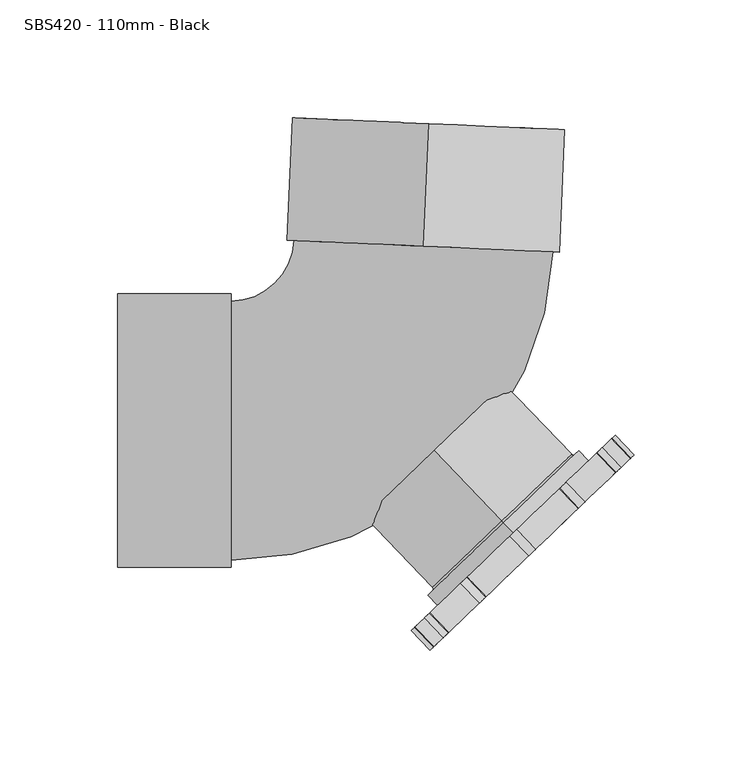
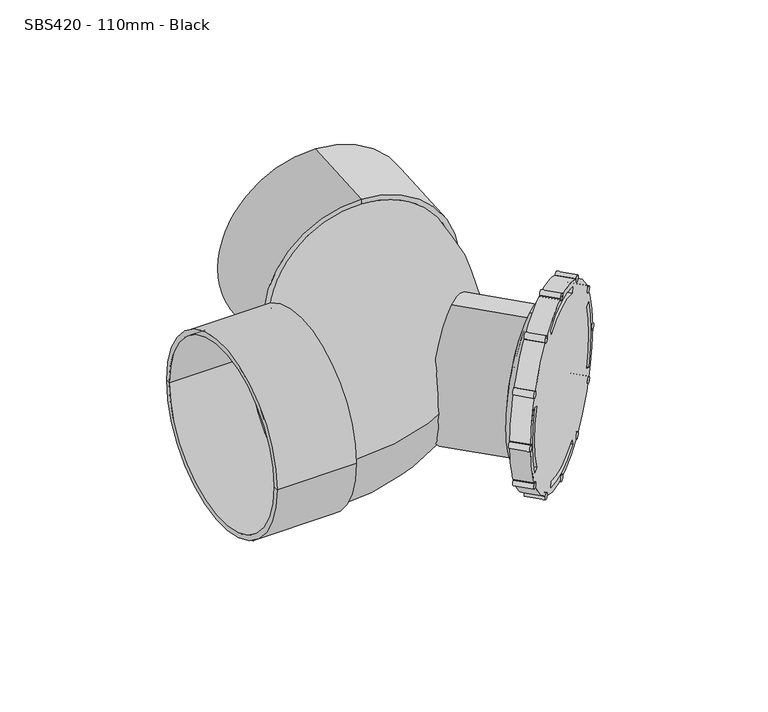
"""IFC4 building model written with IfcOpenShell, lengths in millimetres: pipe fitting geometry, MarleyPlumbingAndDrainage_PipeFitting_RearAccessBend87-5 : SBS420 - 110mm - Black."""

from ifc_helpers import new_model, si_unit, point, frame, frame_2d, origin, place, context, project, spatial, polyline, circle_curve, ellipse_curve, trimmed, segment, composite_curve, outline, extrude, source, transform, mapped, element, save
from ifc_brep_helpers import plane_surface, cylinder_surface, revolved_surface, advanced_brep


def sbs420_110mm_black_80ae0a49(model_context):
    return source(origin(), model_context, "Body", "SolidModel", [
        extrude(outline(composite_curve([segment(trimmed(circle_curve(frame_2d((1e-07, -2.0)), 2.0), [point((0.0, -4.0))], [point((0.0, 0.0))], False, "CARTESIAN"), True, "CONTINUOUS"), segment(trimmed(circle_curve(frame_2d((1e-07, -2.0)), 2.0), [point((0.0, 0.0))], [point((0.0, -4.0))], False, "CARTESIAN"), True, "CONTINUOUS")], self_intersect=False)), frame((84.9672589, -16.3114833, 27.2679492), z_axis=(-0.6915130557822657, 0.7223639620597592, 0.0), x_axis=(0.6255855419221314, 0.5988678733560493, 0.4999999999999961)), (0.0, 0.0, 1.0), 11.5),
        extrude(outline(composite_curve([segment(trimmed(circle_curve(frame_2d((0.0, -2.0)), 2.0), [point((0.0, -4.0))], [point((0.0, 0.0))], False, "CARTESIAN"), True, "CONTINUOUS"), segment(trimmed(circle_curve(frame_2d((0.0, -2.0)), 2.0), [point((0.0, 0.0))], [point((0.0, -4.0))], False, "CARTESIAN"), True, "CONTINUOUS")], self_intersect=False)), frame((89.8580434, -11.6295757, -2.0), z_axis=(-0.6915130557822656, 0.7223639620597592, 0.0), x_axis=(0.7223639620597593, 0.6915130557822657, 0.0)), (0.0, 0.0, 1.0), 11.5),
        extrude(outline(composite_curve([segment(trimmed(circle_curve(frame_2d((1e-07, -2.0)), 2.0), [point((0.0, -4.0))], [point((0.0, 0.0))], False, "CARTESIAN"), True, "CONTINUOUS"), segment(trimmed(circle_curve(frame_2d((1e-07, -2.0)), 2.0), [point((0.0, 0.0))], [point((0.0, -4.0))], False, "CARTESIAN"), True, "CONTINUOUS")], self_intersect=False)), frame((83.522531, -17.6945094, -30.7320508), z_axis=(-0.6915130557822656, 0.7223639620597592, 0.0), x_axis=(0.6255855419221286, 0.5988678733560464, -0.5000000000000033)), (0.0, 0.0, 1.0), 11.5),
        extrude(outline(composite_curve([segment(trimmed(circle_curve(frame_2d((0.0, -2.0)), 2.0), [point((0.0, -4.0))], [point((0.0, 0.0))], False, "CARTESIAN"), True, "CONTINUOUS"), segment(trimmed(circle_curve(frame_2d((0.0, -2.0)), 2.0), [point((0.0, 0.0))], [point((0.0, -4.0))], False, "CARTESIAN"), True, "CONTINUOUS")], self_intersect=False)), frame((67.6583174, -32.8811901, -51.2294734), z_axis=(-0.6915130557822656, 0.7223639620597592, 0.0), x_axis=(0.36118198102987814, 0.3457565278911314, -0.8660254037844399)), (0.0, 0.0, 1.0), 11.5),
        extrude(outline(composite_curve([segment(trimmed(circle_curve(frame_2d((0.0, -2.0)), 2.0), [point((0.0, -4.0))], [point((0.0, 0.0))], False, "CARTESIAN"), True, "CONTINUOUS"), segment(trimmed(circle_curve(frame_2d((0.0, -2.0)), 2.0), [point((0.0, 0.0))], [point((0.0, -4.0))], False, "CARTESIAN"), True, "CONTINUOUS")], self_intersect=False)), frame((46.5162056, -53.1203591, -58.0), z_axis=(-0.6915130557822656, 0.7223639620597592, 0.0), x_axis=(0.0, 0.0, -1.0)), (0.0, 0.0, 1.0), 11.5),
        extrude(outline(composite_curve([segment(trimmed(circle_curve(frame_2d((0.0, -2.0)), 2.0), [point((1e-07, -3.9999999))], [point((0.0, 0.0))], False, "CARTESIAN"), True, "CONTINUOUS"), segment(trimmed(circle_curve(frame_2d((0.0, -2.0)), 2.0), [point((0.0, 0.0))], [point((1e-07, -3.9999999))], False, "CARTESIAN"), True, "CONTINUOUS")], self_intersect=False)), frame((25.7612076, -72.9889473, -49.2294734), z_axis=(-0.6915130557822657, 0.7223639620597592, 0.0), x_axis=(-0.36118198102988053, -0.3457565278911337, -0.866025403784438)), (0.0, 0.0, 1.0), 11.5),
        extrude(outline(composite_curve([segment(trimmed(circle_curve(frame_2d((0.0, -2.0)), 2.0), [point((0.0, -4.0))], [point((0.0, 0.0))], False, "CARTESIAN"), True, "CONTINUOUS"), segment(trimmed(circle_curve(frame_2d((0.0, -2.0)), 2.0), [point((0.0, 0.0))], [point((0.0, -4.0))], False, "CARTESIAN"), True, "CONTINUOUS")], self_intersect=False)), frame((10.9546082, -87.1631827, -27.2679492), z_axis=(-0.6915130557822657, 0.7223639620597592, 0.0), x_axis=(-0.6255855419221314, -0.5988678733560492, -0.4999999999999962)), (0.0, 0.0, 1.0), 11.5),
        extrude(outline(composite_curve([segment(trimmed(circle_curve(frame_2d((0.0, -2.0)), 2.0), [point((0.0, -4.0))], [point((0.0, 0.0))], False, "CARTESIAN"), True, "CONTINUOUS"), segment(trimmed(circle_curve(frame_2d((0.0, -2.0)), 2.0), [point((0.0, 0.0))], [point((0.0, -4.0))], False, "CARTESIAN"), True, "CONTINUOUS")], self_intersect=False)), frame((6.0638238, -91.8450902, 2.0), z_axis=(-0.6915130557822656, 0.7223639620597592, 0.0), x_axis=(-0.7223639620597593, -0.6915130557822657, 0.0)), (0.0, 0.0, 1.0), 11.5),
        extrude(outline(composite_curve([segment(trimmed(circle_curve(frame_2d((0.0, -2.0)), 2.0), [point((0.0, -4.0))], [point((0.0, 0.0))], False, "CARTESIAN"), True, "CONTINUOUS"), segment(trimmed(circle_curve(frame_2d((0.0, -2.0)), 2.0), [point((0.0, 0.0))], [point((0.0, -4.0))], False, "CARTESIAN"), True, "CONTINUOUS")], self_intersect=False)), frame((12.3993361, -85.7801566, 30.7320508), z_axis=(-0.6915130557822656, 0.7223639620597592, 0.0), x_axis=(-0.6255855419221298, -0.5988678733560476, 0.5000000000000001)), (0.0, 0.0, 1.0), 11.5),
        extrude(outline(composite_curve([segment(trimmed(circle_curve(frame_2d((0.0, -1.9999999)), 2.0), [point((-1e-07, -3.9999999))], [point((0.0, 0.0))], False, "CARTESIAN"), True, "CONTINUOUS"), segment(trimmed(circle_curve(frame_2d((0.0, -1.9999999)), 2.0), [point((0.0, 0.0))], [point((-1e-07, -3.9999999))], False, "CARTESIAN"), True, "CONTINUOUS")], self_intersect=False)), frame((28.2635497, -70.5934759, 51.2294734), z_axis=(-0.6915130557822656, 0.7223639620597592, 0.0), x_axis=(-0.36118198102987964, -0.34575652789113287, 0.8660254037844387)), (0.0, 0.0, 1.0), 11.5),
        extrude(outline(composite_curve([segment(trimmed(circle_curve(frame_2d((0.0, -2.0)), 2.0), [point((0.0, -4.0))], [point((0.0, 0.0))], False, "CARTESIAN"), True, "CONTINUOUS"), segment(trimmed(circle_curve(frame_2d((0.0, -2.0)), 2.0), [point((0.0, 0.0))], [point((0.0, -4.0))], False, "CARTESIAN"), True, "CONTINUOUS")], self_intersect=False)), frame((70.1606595, -30.4857186, 49.2294734), z_axis=(-0.6915130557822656, 0.7223639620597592, 0.0), x_axis=(0.3611819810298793, 0.34575652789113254, 0.8660254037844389)), (0.0, 0.0, 1.0), 11.5),
        extrude(outline(composite_curve([segment(trimmed(circle_curve(frame_2d((0.0, -2.0)), 2.0), [point((0.0, -4.0))], [point((0.0, 0.0))], False, "CARTESIAN"), True, "CONTINUOUS"), segment(trimmed(circle_curve(frame_2d((0.0, -2.0)), 2.0), [point((0.0, 0.0))], [point((0.0, -4.0))], False, "CARTESIAN"), True, "CONTINUOUS")], self_intersect=False)), frame((49.4056615, -50.3543069, 58.0), z_axis=(-0.6915130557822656, 0.7223639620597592, 0.0), x_axis=(0.0, 0.0, 1.0)), (0.0, 0.0, 1.0), 11.5),
        advanced_brep(
        [(6.0638238, -91.8450902, 0.0), (89.8580434, -11.6295757, 0.0), (32.8951323, -66.1597001, -50.3514345), (33.8626608, -65.2334931, -47.1178562), (62.0592063, -38.2411729, -47.1178562), (63.0267348, -37.3149658, -50.3514345), (84.3329953, -16.9186586, -20.8562471), (81.9971748, -19.1547203, -19.5168551), (81.9971748, -19.1547203, 19.5168551), (84.3329953, -16.9186586, 20.8562471), (13.9246923, -84.3199457, 19.5168551), (13.9246923, -84.3199457, -19.5168551), (11.5888718, -86.5560073, -20.8562471), (11.5888718, -86.5560073, 20.8562471), (33.8626608, -65.2334931, 47.1178562), (32.8951323, -66.1597001, 50.3514345), (63.0267348, -37.3149658, 50.3514345), (62.0592063, -38.2411729, 47.1178562), (-1.8885764, -83.5379047, 0.0), (81.9056432, -3.3223902, 0.0), (40.0085334, -43.4301474, -44.5), (40.0085334, -43.4301474, 44.5), (35.8594551, -39.0959636, -44.5), (35.8594551, -39.0959636, 44.5), (35.8594551, -39.0959636, -42.0), (35.8594551, -39.0959636, 42.0), (35.167942, -38.3735997, -41.0), (35.167942, -38.3735997, 41.0), (6.4701502, -8.3954953, -41.0), (6.4701502, -8.3954953, 41.0), (6.4701502, -8.3954953, 0.0), (29.2248779, -60.3888018, -47.1178562), (28.2573494, -61.3150089, -50.3514345), (58.3889519, -32.4702746, -50.3514345), (57.4214234, -33.3964817, -47.1178562), (77.3593919, -14.3100291, -19.5168551), (79.6952124, -12.0739674, -20.8562471), (79.6952124, -12.0739674, 20.8562471), (77.3593919, -14.3100291, 19.5168551), (9.2869094, -79.4752545, -19.5168551), (9.2869094, -79.4752545, 19.5168551), (6.9510889, -81.7113161, 20.8562471), (6.9510889, -81.7113161, -20.8562471), (28.2573494, -61.3150089, 50.3514345), (29.2248779, -60.3888018, 47.1178562), (57.4214234, -33.3964817, 47.1178562), (58.3889519, -32.4702746, 50.3514345)],
        [
            (0, 1, circle_curve(frame((47.9609336, -51.737333, 0.0), z_axis=(0.6915130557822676, -0.7223639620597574, 0.0), x_axis=(0.7223639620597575, 0.6915130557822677, 0.0)), 58.0)),
            (1, 0, circle_curve(frame((47.9609336, -51.737333, 0.0), z_axis=(0.6915130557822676, -0.7223639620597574, 0.0), x_axis=(0.7223639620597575, 0.6915130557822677, 0.0)), 58.0)),
            (2, 3),
            (3, 4, circle_curve(frame((47.9609336, -51.737333, 0.0), z_axis=(0.6915130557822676, -0.7223639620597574, 0.0), x_axis=(0.7223639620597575, 0.6915130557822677, 0.0)), 51.0)),
            (4, 5),
            (5, 2, circle_curve(frame((47.9609336, -51.737333, 0.0), z_axis=(-0.6915130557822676, 0.7223639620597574, 0.0), x_axis=(0.7223639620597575, 0.6915130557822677, 0.0)), 54.5)),
            (6, 7),
            (7, 8, circle_curve(frame((47.9609336, -51.737333, 0.0), z_axis=(0.6915130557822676, -0.7223639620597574, 0.0), x_axis=(0.7223639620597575, 0.6915130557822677, 0.0)), 51.0)),
            (8, 9),
            (9, 6, circle_curve(frame((47.9609336, -51.737333, 0.0), z_axis=(-0.6915130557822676, 0.7223639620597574, 0.0), x_axis=(0.7223639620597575, 0.6915130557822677, 0.0)), 54.5)),
            (10, 11, circle_curve(frame((47.9609336, -51.737333, 0.0), z_axis=(0.6915130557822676, -0.7223639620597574, 0.0), x_axis=(0.7223639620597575, 0.6915130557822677, 0.0)), 51.0)),
            (11, 12),
            (12, 13, circle_curve(frame((47.9609336, -51.737333, 0.0), z_axis=(-0.6915130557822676, 0.7223639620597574, 0.0), x_axis=(0.7223639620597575, 0.6915130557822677, 0.0)), 54.5)),
            (13, 10),
            (14, 15),
            (15, 16, circle_curve(frame((47.9609336, -51.737333, 0.0), z_axis=(-0.6915130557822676, 0.7223639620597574, 0.0), x_axis=(0.7223639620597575, 0.6915130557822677, 0.0)), 54.5)),
            (16, 17),
            (17, 14, circle_curve(frame((47.9609336, -51.737333, 0.0), z_axis=(0.6915130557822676, -0.7223639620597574, 0.0), x_axis=(0.7223639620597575, 0.6915130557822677, 0.0)), 51.0)),
            (18, 19, circle_curve(frame((40.0085334, -43.4301474, 0.0), z_axis=(-0.6915130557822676, 0.7223639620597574, 0.0), x_axis=(0.7223639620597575, 0.6915130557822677, 0.0)), 58.0)),
            (19, 18, circle_curve(frame((40.0085334, -43.4301474, 0.0), z_axis=(-0.6915130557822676, 0.7223639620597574, 0.0), x_axis=(0.7223639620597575, 0.6915130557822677, 0.0)), 58.0)),
            (20, 21, circle_curve(frame((40.0085334, -43.4301474, 0.0), z_axis=(0.6915130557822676, -0.7223639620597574, 0.0), x_axis=(0.0, 0.0, 1.0000000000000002)), 44.5)),
            (21, 20, circle_curve(frame((40.0085334, -43.4301474, 0.0), z_axis=(0.6915130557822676, -0.7223639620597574, 0.0), x_axis=(0.0, 0.0, 1.0000000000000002)), 44.5)),
            (0, 18),
            (19, 1),
            (22, 23, circle_curve(frame((35.8594551, -39.0959636, 0.0), z_axis=(0.6915130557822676, -0.7223639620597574, 0.0), x_axis=(0.0, 0.0, 1.0000000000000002)), 44.5)),
            (23, 21),
            (20, 22),
            (23, 22, circle_curve(frame((35.8594551, -39.0959636, 0.0), z_axis=(0.6915130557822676, -0.7223639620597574, 0.0), x_axis=(0.0, 0.0, 1.0000000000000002)), 44.5)),
            (22, 24),
            (24, 25, circle_curve(frame((35.8594551, -39.0959636, 0.0), z_axis=(0.6915130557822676, -0.7223639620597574, 0.0), x_axis=(0.0, 0.0, 1.0000000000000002)), 42.0)),
            (25, 23),
            (25, 24, circle_curve(frame((35.8594551, -39.0959636, 0.0), z_axis=(0.6915130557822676, -0.7223639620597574, 0.0), x_axis=(0.0, 0.0, 1.0000000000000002)), 42.0)),
            (24, 26, circle_curve(frame((35.167942, -38.3735997, -42.0), z_axis=(-0.7223639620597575, -0.6915130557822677, 0.0), x_axis=(0.6915130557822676, -0.7223639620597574, 0.0)), 1.0)),
            (26, 27, circle_curve(frame((35.167942, -38.3735997, 0.0), z_axis=(0.6915130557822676, -0.7223639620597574, 0.0), x_axis=(0.0, 0.0, 1.0000000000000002)), 41.0)),
            (27, 25, circle_curve(frame((35.167942, -38.3735997, 42.0), z_axis=(-0.7223639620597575, -0.6915130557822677, 0.0), x_axis=(0.6915130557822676, -0.7223639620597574, 0.0)), 1.0)),
            (27, 26, circle_curve(frame((35.167942, -38.3735997, 0.0), z_axis=(0.6915130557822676, -0.7223639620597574, 0.0), x_axis=(0.0, 0.0, 1.0000000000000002)), 41.0)),
            (26, 28),
            (28, 29, circle_curve(frame((6.4701502, -8.3954953, 0.0), z_axis=(0.6915130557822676, -0.7223639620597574, 0.0), x_axis=(0.0, 0.0, 1.0000000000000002)), 41.0)),
            (29, 27),
            (29, 28, circle_curve(frame((6.4701502, -8.3954953, 0.0), z_axis=(0.6915130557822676, -0.7223639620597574, 0.0), x_axis=(0.0, 0.0, 1.0000000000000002)), 41.0)),
            (28, 30),
            (30, 29),
            (31, 32),
            (32, 33, circle_curve(frame((43.3231507, -46.8926418, 0.0), z_axis=(0.6915130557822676, -0.7223639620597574, 0.0), x_axis=(0.7223639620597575, 0.6915130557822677, 0.0)), 54.5)),
            (33, 34),
            (34, 31, circle_curve(frame((43.3231507, -46.8926418, 0.0), z_axis=(-0.6915130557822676, 0.7223639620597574, 0.0), x_axis=(0.7223639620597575, 0.6915130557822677, 0.0)), 51.0)),
            (35, 36),
            (36, 37, circle_curve(frame((43.3231507, -46.8926418, 0.0), z_axis=(0.6915130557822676, -0.7223639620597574, 0.0), x_axis=(0.7223639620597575, 0.6915130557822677, 0.0)), 54.5)),
            (37, 38),
            (38, 35, circle_curve(frame((43.3231507, -46.8926418, 0.0), z_axis=(-0.6915130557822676, 0.7223639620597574, 0.0), x_axis=(0.7223639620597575, 0.6915130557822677, 0.0)), 51.0)),
            (39, 40, circle_curve(frame((43.3231507, -46.8926418, 0.0), z_axis=(-0.6915130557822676, 0.7223639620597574, 0.0), x_axis=(0.7223639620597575, 0.6915130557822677, 0.0)), 51.0)),
            (40, 41),
            (41, 42, circle_curve(frame((43.3231507, -46.8926418, 0.0), z_axis=(0.6915130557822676, -0.7223639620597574, 0.0), x_axis=(0.7223639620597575, 0.6915130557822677, 0.0)), 54.5)),
            (42, 39),
            (43, 44),
            (44, 45, circle_curve(frame((43.3231507, -46.8926418, 0.0), z_axis=(-0.6915130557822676, 0.7223639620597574, 0.0), x_axis=(0.7223639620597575, 0.6915130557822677, 0.0)), 51.0)),
            (45, 46),
            (46, 43, circle_curve(frame((43.3231507, -46.8926418, 0.0), z_axis=(0.6915130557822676, -0.7223639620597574, 0.0), x_axis=(0.7223639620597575, 0.6915130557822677, 0.0)), 54.5)),
            (31, 3),
            (2, 32),
            (5, 33),
            (4, 34),
            (35, 7),
            (6, 36),
            (9, 37),
            (8, 38),
            (39, 11),
            (10, 40),
            (13, 41),
            (12, 42),
            (43, 15),
            (14, 44),
            (17, 45),
            (16, 46),
        ],
        [
            plane_surface(frame((89.8580434, -11.6295757, 0.0), z_axis=(0.6915130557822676, -0.7223639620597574, 0.0), x_axis=(0.0, 0.0, 1.0))),
            plane_surface(frame((81.9056432, -3.3223902, 0.0), z_axis=(-0.6915130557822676, 0.7223639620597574, 0.0), x_axis=(0.0, 0.0, -1.0))),
            cylinder_surface(frame((40.0085334, -43.4301474, 0.0), z_axis=(0.6915130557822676, -0.7223639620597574, 0.0), x_axis=(0.7223639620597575, 0.6915130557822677, 0.0)), 58.0),
            cylinder_surface(frame((-794.5399498, 828.3505714, 0.0), z_axis=(-0.6915130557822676, 0.7223639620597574, 0.0), x_axis=(0.0, 0.0, 1.0000000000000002)), 44.5),
            plane_surface(frame((35.8594551, -39.0959636, 0.0), z_axis=(-0.6915130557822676, 0.7223639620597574, 0.0), x_axis=(0.0, 0.0, 1.0))),
            revolved_surface(trimmed(ellipse_curve(frame((35.167942, -38.3735997, 42.0), z_axis=(0.7223639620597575, 0.6915130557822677, 0.0), x_axis=(0.6915130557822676, -0.7223639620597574, 0.0)), 1.0, 1.0), [point((35.8594551, -39.0959636, 42.0))], [point((35.167942, -38.3735997, 41.0))], True, "CARTESIAN"), (-794.5399498, 828.3505714, 0.0), (-0.6915130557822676, 0.7223639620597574, 0.0)),
            cylinder_surface(frame((-794.5399498, 828.3505714, 0.0), z_axis=(-0.6915130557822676, 0.7223639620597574, 0.0), x_axis=(0.0, 0.0, 1.0000000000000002)), 41.0),
            plane_surface(frame((6.4701502, -8.3954953, 0.0), z_axis=(-0.6915130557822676, 0.7223639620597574, 0.0), x_axis=(0.0, 0.0, 1.0))),
            plane_surface(frame((28.2573494, -61.3150089, -50.3514345), z_axis=(0.6915130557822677, -0.7223639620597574, 0.0), x_axis=(0.27643672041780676, 0.2646305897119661, 0.923879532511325))),
            plane_surface(frame((33.8626608, -65.2334931, -47.1178562), z_axis=(0.6673772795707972, 0.6388747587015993, -0.3826834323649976), x_axis=(-0.6915130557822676, 0.7223639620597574, 0.0))),
            revolved_surface(polyline([(87.3297695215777, -14.049871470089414, 0.0), (82.69198657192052, -9.205180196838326, 0.0)]), (43.3231507, -46.8926418, 0.0), (0.6915130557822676, -0.7223639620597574, 0.0)),
            plane_surface(frame((63.0267348, -37.3149658, -50.3514345), z_axis=(-0.667377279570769, -0.6388747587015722, -0.38268343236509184), x_axis=(-0.6915130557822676, 0.7223639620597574, 0.0))),
            cylinder_surface(frame((43.3231507, -46.8926418, 0.0), z_axis=(-0.6915130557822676, 0.7223639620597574, 0.0), x_axis=(0.7223639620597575, 0.6915130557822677, 0.0)), 51.0),
            plane_surface(frame((81.9971748, -19.1547203, -19.5168551), z_axis=(0.2764367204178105, 0.2646305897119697, 0.923879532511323), x_axis=(-0.6915130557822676, 0.7223639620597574, 0.0))),
            revolved_surface(polyline([(87.329769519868, -14.049871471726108, 0.0), (82.69198658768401, -9.205180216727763, 0.0)]), (40.0085334, -43.4301474, 0.0), (0.6915130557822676, -0.7223639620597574, 0.0)),
            plane_surface(frame((84.3329953, -16.9186586, 20.8562471), z_axis=(0.2764367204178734, 0.2646305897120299, -0.923879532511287), x_axis=(-0.6915130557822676, 0.7223639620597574, 0.0))),
            cylinder_surface(frame((40.0085334, -43.4301474, 0.0), z_axis=(-0.6915130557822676, 0.7223639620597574, 0.0), x_axis=(0.7223639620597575, 0.6915130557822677, 0.0)), 51.0),
            plane_surface(frame((13.9246923, -84.3199457, 19.5168551), z_axis=(-0.27643672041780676, -0.2646305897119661, -0.9238795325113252), x_axis=(-0.6915130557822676, 0.7223639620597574, 0.0))),
            revolved_surface(polyline([(87.329769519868, -14.049871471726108, 0.0), (82.69198657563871, -9.205180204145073, 0.0)]), (40.0085334, -43.4301474, 0.0), (0.6915130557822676, -0.7223639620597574, 0.0)),
            plane_surface(frame((11.5888718, -86.5560073, -20.8562471), z_axis=(-0.27643672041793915, -0.26463058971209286, 0.9238795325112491), x_axis=(-0.6915130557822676, 0.7223639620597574, 0.0))),
            plane_surface(frame((32.8951323, -66.1597001, 50.3514345), z_axis=(0.6673772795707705, 0.6388747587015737, 0.38268343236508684), x_axis=(-0.6915130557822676, 0.7223639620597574, 0.0))),
            plane_surface(frame((62.0592063, -38.2411729, 47.1178562), z_axis=(-0.6673772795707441, -0.6388747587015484, 0.382683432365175), x_axis=(-0.6915130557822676, 0.7223639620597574, 0.0))),
            revolved_surface(polyline([(87.329769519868, -14.049871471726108, 0.0), (82.69198657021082, -9.20518019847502, 0.0)]), (40.0085334, -43.4301474, 0.0), (0.6915130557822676, -0.7223639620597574, 0.0)),
        ],
        [
            (0, [[1, 2], [3, 4, 5, 6], [7, 8, 9, 10], [11, 12, 13, 14], [15, 16, 17, 18]]),
            (1, [[19, 20], [21, 22]]),
            (2, [[-1, 23, -20, 24]]),
            (2, [[-2, -24, -19, -23]]),
            (3, [[25, 26, -21, 27]]),
            (3, [[-26, 28, -27, -22]]),
            (4, [[-25, 29, 30, 31]]),
            (4, [[-28, -31, 32, -29]]),
            (5, [[-30, 33, 34, 35]]),
            (5, [[-32, -35, 36, -33]]),
            (6, [[-34, 37, 38, 39]]),
            (6, [[-36, -39, 40, -37]]),
            (7, [[-38, 41, 42]]),
            (7, [[-40, -42, -41]]),
            (8, [[43, 44, 45, 46]]),
            (8, [[47, 48, 49, 50]]),
            (8, [[51, 52, 53, 54]]),
            (8, [[55, 56, 57, 58]]),
            (9, [[-43, 59, -3, 60]]),
            (10, [[-44, -60, -6, 61]]),
            (11, [[-45, -61, -5, 62]]),
            (12, [[-46, -62, -4, -59]]),
            (13, [[-47, 63, -7, 64]]),
            (14, [[-48, -64, -10, 65]]),
            (15, [[-49, -65, -9, 66]]),
            (16, [[-50, -66, -8, -63]]),
            (16, [[-51, 67, -11, 68]]),
            (17, [[-52, -68, -14, 69]]),
            (18, [[-53, -69, -13, 70]]),
            (19, [[-54, -70, -12, -67]]),
            (20, [[-55, 71, -15, 72]]),
            (16, [[-56, -72, -18, 73]]),
            (21, [[-57, -73, -17, 74]]),
            (22, [[-58, -74, -16, -71]]),
        ],
    ),
        advanced_brep(
        [(4.1212757, 130.2780797, -55.1429746), (4.1212757, 130.2780797, 54.8570254), (4.1212757, 130.2780797, 57.8570254), (4.1212757, 130.2780797, -58.1429746), (1.8530676, 78.3275722, -55.1429746), (1.8530676, 78.3275722, 54.8570254), (1.8530676, 78.3275722, -58.1429746), (1.8530676, 78.3275722, 57.8570254)],
        [
            (0, 1, circle_curve(frame((4.1212757, 130.2780797, -0.1429746), z_axis=(-0.043619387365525, -0.9990482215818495, 0.0), x_axis=(0.0, 0.0, 1.0)), 55.0)),
            (1, 2),
            (2, 3, circle_curve(frame((4.1212757, 130.2780797, -0.1429746), z_axis=(0.043619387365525, 0.9990482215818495, 0.0), x_axis=(0.0, 0.0, 1.0)), 58.0)),
            (3, 0),
            (1, 0, circle_curve(frame((4.1212757, 130.2780797, -0.1429746), z_axis=(-0.043619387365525, -0.9990482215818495, 0.0), x_axis=(0.0, 0.0, 1.0)), 55.0)),
            (3, 2, circle_curve(frame((4.1212757, 130.2780797, -0.1429746), z_axis=(0.043619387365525, 0.9990482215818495, 0.0), x_axis=(0.0, 0.0, 1.0)), 58.0)),
            (4, 5, circle_curve(frame((1.8530676, 78.3275722, -0.1429746), z_axis=(-0.043619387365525, -0.9990482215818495, 0.0), x_axis=(0.0, 0.0, 1.0)), 55.0)),
            (5, 1),
            (0, 4),
            (5, 4, circle_curve(frame((1.8530676, 78.3275722, -0.1429746), z_axis=(-0.043619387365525, -0.9990482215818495, 0.0), x_axis=(0.0, 0.0, 1.0)), 55.0)),
            (6, 7, circle_curve(frame((1.8530676, 78.3275722, -0.1429746), z_axis=(-0.043619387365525, -0.9990482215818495, 0.0), x_axis=(0.0, 0.0, 1.0)), 58.0)),
            (7, 5),
            (4, 6),
            (7, 6, circle_curve(frame((1.8530676, 78.3275722, -0.1429746), z_axis=(-0.043619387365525, -0.9990482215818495, 0.0), x_axis=(0.0, 0.0, 1.0)), 58.0)),
            (2, 7),
            (6, 3),
        ],
        [
            plane_surface(frame((4.1212757, 130.2780797, -0.1429746), z_axis=(0.043619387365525, 0.9990482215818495, 0.0), x_axis=(0.0, 0.0, 1.0))),
            revolved_surface(polyline([(4.121275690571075, 130.2780797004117, 54.8570254), (1.85306754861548, 78.32757220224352, 54.8570254)]), (4.7755665, 145.263803, -0.1429746), (0.043619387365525, 0.9990482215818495, 0.0)),
            plane_surface(frame((1.8530676, 78.3275722, -0.1429746), z_axis=(-0.043619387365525, -0.9990482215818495, 0.0), x_axis=(0.0, 0.0, 1.0))),
            cylinder_surface(frame((4.7755665, 145.263803, -0.1429746), z_axis=(0.043619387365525, 0.9990482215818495, 0.0), x_axis=(0.0, 0.0, 1.0)), 58.0),
        ],
        [
            (0, [[1, 2, 3, 4]]),
            (0, [[5, -4, 6, -2]]),
            (1, [[7, 8, -1, 9]]),
            (1, [[10, -9, -5, -8]]),
            (2, [[11, 12, -7, 13]]),
            (2, [[14, -13, -10, -12]]),
            (3, [[-3, 15, -11, 16]]),
            (3, [[-6, -16, -14, -15]]),
        ],
    ),
        advanced_brep(
        [(-128.0689818, 55.0, -0.1429746), (-128.0689818, -55.0, -0.1429746), (-128.0689818, -58.0, -0.1429746), (-128.0689818, 58.0, -0.1429746), (-79.9689818, 55.0, -0.1429746), (-79.9689818, -55.0, -0.1429746), (-79.9689818, 58.0, -0.1429746), (-79.9689818, -58.0, -0.1429746)],
        [
            (0, 1, circle_curve(frame((-128.0689818, 0.0, -0.1429746), z_axis=(1.0, 0.0, 0.0), x_axis=(0.0, -1.0, 0.0)), 55.0)),
            (1, 2),
            (2, 3, circle_curve(frame((-128.0689818, 0.0, -0.1429746), z_axis=(-1.0, 0.0, 0.0), x_axis=(0.0, -1.0, 0.0)), 58.0)),
            (3, 0),
            (1, 0, circle_curve(frame((-128.0689818, 0.0, -0.1429746), z_axis=(1.0, 0.0, 0.0), x_axis=(0.0, -1.0, 0.0)), 55.0)),
            (3, 2, circle_curve(frame((-128.0689818, 0.0, -0.1429746), z_axis=(-1.0, 0.0, 0.0), x_axis=(0.0, -1.0, 0.0)), 58.0)),
            (4, 5, circle_curve(frame((-79.9689818, 0.0, -0.1429746), z_axis=(1.0, 0.0, 0.0), x_axis=(0.0, -1.0, 0.0)), 55.0)),
            (5, 1),
            (0, 4),
            (5, 4, circle_curve(frame((-79.9689818, 0.0, -0.1429746), z_axis=(1.0, 0.0, 0.0), x_axis=(0.0, -1.0, 0.0)), 55.0)),
            (6, 7, circle_curve(frame((-79.9689818, 0.0, -0.1429746), z_axis=(1.0, 0.0, 0.0), x_axis=(0.0, -1.0, 0.0)), 58.0)),
            (7, 5),
            (4, 6),
            (7, 6, circle_curve(frame((-79.9689818, 0.0, -0.1429746), z_axis=(1.0, 0.0, 0.0), x_axis=(0.0, -1.0, 0.0)), 58.0)),
            (2, 7),
            (6, 3),
        ],
        [
            plane_surface(frame((-128.0689818, 0.0, -0.1429746), z_axis=(-1.0, 0.0, 0.0), x_axis=(0.0, -1.0, 0.0))),
            revolved_surface(polyline([(-128.0689818, -55.0, -0.1429746), (-79.9689818, -55.0, -0.1429746)]), (-143.0689818, 0.0, -0.1429746), (-1.0, 0.0, 0.0)),
            plane_surface(frame((-79.9689818, 0.0, -0.1429746), z_axis=(1.0, 0.0, 0.0), x_axis=(0.0, -1.0, 0.0))),
            cylinder_surface(frame((-143.0689818, 0.0, -0.1429746), z_axis=(-1.0, 0.0, 0.0), x_axis=(0.0, -1.0, 0.0)), 58.0),
        ],
        [
            (0, [[1, 2, 3, 4]]),
            (0, [[5, -4, 6, -2]]),
            (1, [[7, 8, -1, 9]]),
            (1, [[10, -9, -5, -8]]),
            (2, [[11, 12, -7, 13]]),
            (2, [[14, -13, -10, -12]]),
            (3, [[-3, 15, -11, 16]]),
            (3, [[-6, -16, -14, -15]]),
        ],
    ),
        advanced_brep(
        [(-79.9689818, -55.0, 0.0), (-79.9689818, 55.0, 0.0), (56.8007198, 75.9285059, 0.0), (-53.0945846, 80.7266385, 0.0)],
        [
            (0, 1, circle_curve(frame((-79.9689818, 0.0, 0.0), z_axis=(-1.0, 0.0, 0.0), x_axis=(0.0, 1.0, 0.0)), 55.0)),
            (1, 0, circle_curve(frame((-79.9689818, 0.0, 0.0), z_axis=(-1.0, 0.0, 0.0), x_axis=(0.0, 1.0, 0.0)), 55.0)),
            (2, 3, circle_curve(frame((1.8530676, 78.3275722, 0.0), z_axis=(0.04361938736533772, 0.9990482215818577, 0.0), x_axis=(-0.9990482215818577, 0.04361938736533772, 0.0)), 55.0)),
            (3, 2, circle_curve(frame((1.8530676, 78.3275722, 0.0), z_axis=(0.04361938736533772, 0.9990482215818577, 0.0), x_axis=(-0.9990482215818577, 0.04361938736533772, 0.0)), 55.0)),
            (3, 1, circle_curve(frame((-79.9689818, 81.9, 0.0), z_axis=(0.0, 0.0, -1.0), x_axis=(0.0, -1.0, 0.0)), 26.9)),
            (0, 2, circle_curve(frame((-79.9689818, 81.9, 0.0), z_axis=(0.0, 0.0, 1.0), x_axis=(0.0, -1.0, 0.0)), 136.9)),
        ],
        [
            plane_surface(frame((-79.9689818, 0.0, 0.0), z_axis=(-1.0, 0.0, 0.0), x_axis=(0.0, 0.0, 1.0))),
            plane_surface(frame((1.8530676, 78.3275722, 0.0), z_axis=(0.04361938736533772, 0.9990482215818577, 0.0), x_axis=(0.0, 0.0, 1.0))),
            revolved_surface(trimmed(ellipse_curve(frame((-79.9689818, 0.0, 0.0), z_axis=(-1.0, 0.0, 0.0), x_axis=(0.0, 1.0, 0.0)), 55.0, 55.0), [point((-79.9689818, -55.0, 0.0))], [point((-79.9689818, 55.0, 0.0))], True, "CARTESIAN"), (-79.9689818, 81.9, 0.0), (0.0, 0.0, 1.0)),
            revolved_surface(trimmed(ellipse_curve(frame((-79.9689818, 0.0, 0.0), z_axis=(-1.0, 0.0, 0.0), x_axis=(0.0, 1.0, 0.0)), 55.0, 55.0), [point((-79.9689818, 55.0, 0.0))], [point((-79.9689818, -55.0, 0.0))], True, "CARTESIAN"), (-79.9689818, 81.9, 0.0), (0.0, 0.0, 1.0)),
        ],
        [
            (0, [[1, 2]]),
            (1, [[3, 4]]),
            (2, [[5, -1, 6, -4]]),
            (3, [[-6, -2, -5, -3]]),
        ],
    ),
    ])


if __name__ == "__main__":
    model = new_model("IFC4")
    model_context = context("Model", 3, world=origin())
    ifc_project = project(units=[si_unit("LENGTHUNIT", "METRE", prefix="MILLI")], contexts=[model_context])
    site = spatial("IfcSite", under=ifc_project)
    building = spatial("IfcBuilding", under=site)
    placement = place(None, origin())
    sbs420_110mm_black_shape = sbs420_110mm_black_80ae0a49(model_context)
    element("IfcPipeFitting", 1, ObjectType="MarleyPlumbingAndDrainage_PipeFitting_RearAccessBend87-5 : SBS420 - 110mm - Black", at=placement, inside=building, context=model_context, shape_type="MappedRepresentation", body=[
        mapped(sbs420_110mm_black_shape, transform((0.0, 0.0, 0.0), x_axis=(1.0, 0.0, 0.0), y_axis=(0.0, 1.0, 0.0), z_axis=(0.0, 0.0, 1.0))),
    ])
    save(model, "model.ifc")
